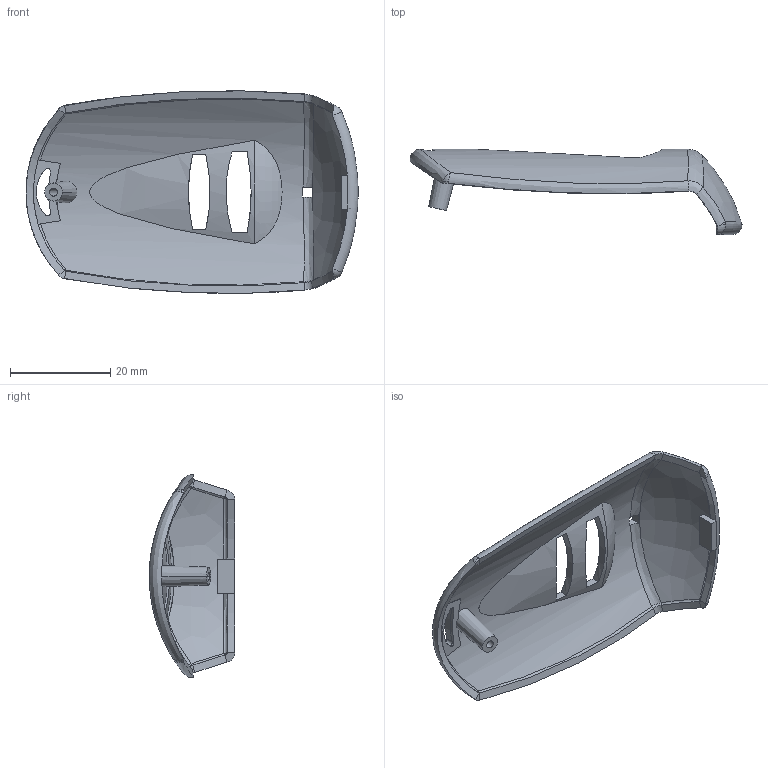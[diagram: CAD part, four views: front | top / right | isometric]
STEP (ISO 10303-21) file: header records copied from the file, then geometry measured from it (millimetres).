
FILE_DESCRIPTION (( 'STEP AP214' ), '1' );
FILE_NAME ('Tapa PP114.STEP', '2018-06-06T09:19:44', ( 'aaa' ), ( '' ), 'SwSTEP 2.0', 'SolidWorks 2013', '' );
FILE_SCHEMA (( 'AUTOMOTIVE_DESIGN' ));
Length unit declared in the file: millimetre
Products named in the file (1): Tapa PP114
Bounding box: 66.12 x 17 x 40.29 mm (x, y, z)
Volume: 4262.3 mm3; surface area: 6281.7 mm2
Topology: 3 solids, 3 shells, 99 faces, 236 edges, 140 vertices
Faces by surface type: cylinder 25, bspline 24, plane 23, sphere 16, torus 7, cone 4
Entity records: 4671 total; most frequent: CARTESIAN_POINT 2553, ORIENTED_EDGE 464, DIRECTION 372, EDGE_CURVE 232, AXIS2_PLACEMENT_3D 159, VERTEX_POINT 140, EDGE_LOOP 110, ADVANCED_FACE 99
